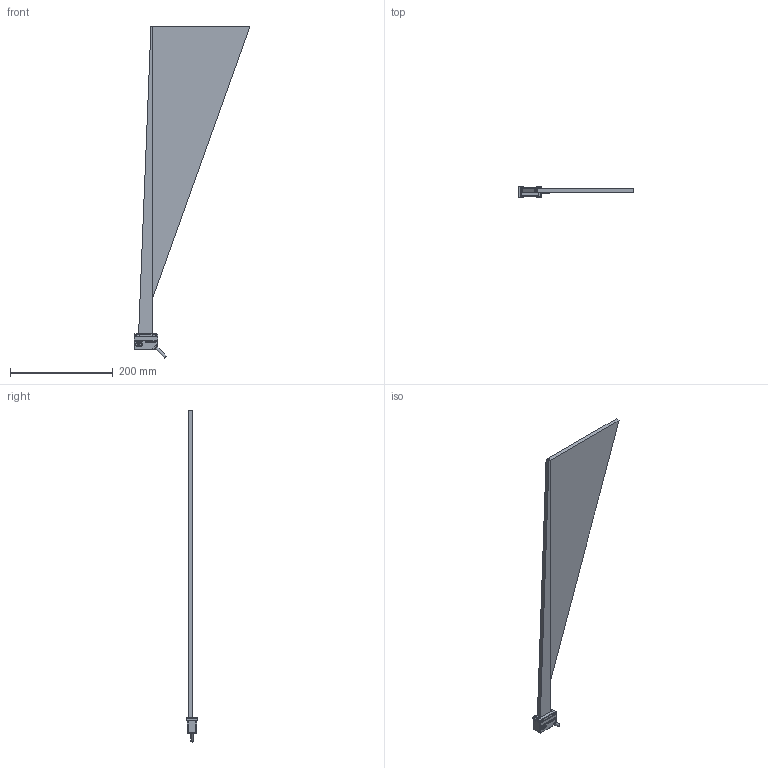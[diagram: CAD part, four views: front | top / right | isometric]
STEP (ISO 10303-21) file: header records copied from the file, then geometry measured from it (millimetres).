
FILE_DESCRIPTION (( 'STEP AP214' ), '1' );
FILE_NAME ('ILD1320-1420_MB500.STEP', '2017-02-09T09:24:49', ( '' ), ( '' ), 'SwSTEP 2.0', 'SolidWorks 2016', '' );
FILE_SCHEMA (( 'AUTOMOTIVE_DESIGN' ));
Length unit declared in the file: millimetre
Products named in the file (5): optical_free_space_MB500_000; laserbeam_tolerance_000; ILD1320-1420_MB500; ILD1320-1420_000; reflexion_free_space_MB500_000
Assembly tree (4 placements, depth 2):
  ILD1320-1420_MB500
    ILD1320-1420_000
    laserbeam_tolerance_000
    optical_free_space_MB500_000
    reflexion_free_space_MB500_000
Bounding box: 225.99 x 20 x 646.9 mm (x, y, z)
Volume: 508931.3 mm3; surface area: 153652.9 mm2
Topology: 6 solids, 8 shells, 1767 faces, 4426 edges, 2696 vertices
Faces by surface type: bspline 840, plane 567, cylinder 348, cone 12
Full cylindrical faces by diameter (mm): 2.7 x2, 3 x2, 3.3 x1, 5.4 x1
Entity records: 66604 total; most frequent: CARTESIAN_POINT 31102, ORIENTED_EDGE 8684, DIRECTION 4875, EDGE_CURVE 4342, VERTEX_POINT 2682, VECTOR 2001, LINE 2001, EDGE_LOOP 1862
